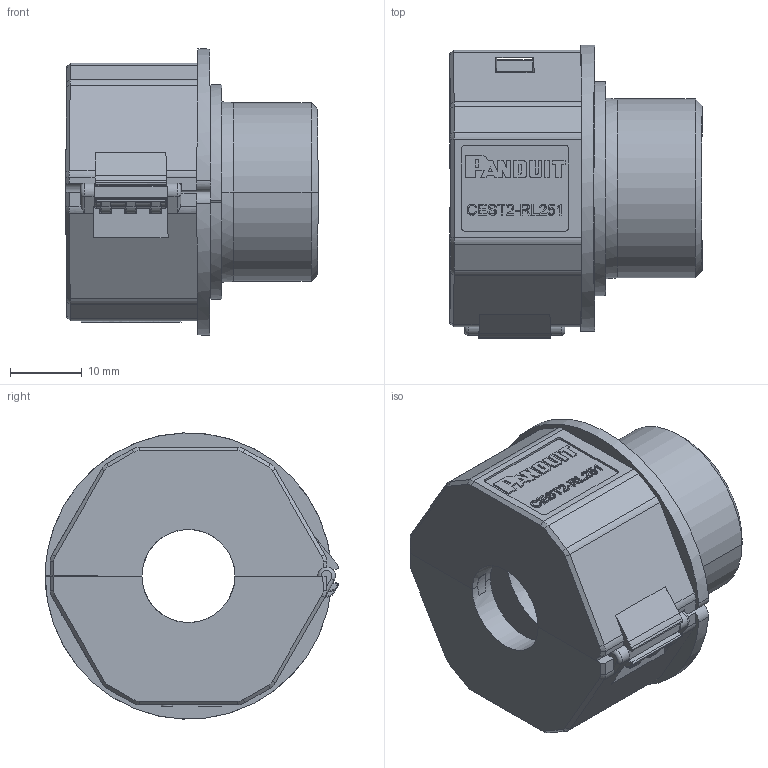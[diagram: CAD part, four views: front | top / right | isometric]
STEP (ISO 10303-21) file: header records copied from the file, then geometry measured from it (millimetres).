
FILE_DESCRIPTION(/* description */ (''),/* implementation_level */ '2;1');
FILE_NAME(/* name */ 'C:\SapWorkDir\Inventor\MP1\ConvertTempPath\87_11_121434_00_A_220615_KDL-D mono M25x1,5.stp',/* time_stamp */ '2022-06-17T11:17:20+02:00',/* author */ ('BAUER'),/* organization */ (''),/* preprocessor_version */ 'ST-DEVELOPER v16.13',/* originating_system */ 'Autodesk Inventor 2018',/* authorisation */ '');
FILE_SCHEMA (('AUTOMOTIVE_DESIGN { 1 0 10303 214 3 1 1 }'));
Length unit declared in the file: millimetre
Products named in the file (5): 121434; 121442; 121435; HS 1_Dichtung-M25; HS 1_Dichtung-M25_1
Assembly tree (4 placements, depth 2):
  121434
    121442
    121435
    HS 1_Dichtung-M25
    HS 1_Dichtung-M25_1
Bounding box: 35.31 x 40.99 x 39.98 mm (x, y, z)
Volume: 17694.8 mm3; surface area: 13670.9 mm2
Topology: 20 solids, 20 shells, 1055 faces, 2797 edges, 1800 vertices
Faces by surface type: plane 586, cylinder 261, bspline 173, torus 20, cone 9, sphere 6
Entity records: 36394 total; most frequent: CARTESIAN_POINT 10281, ORIENTED_EDGE 5582, DIRECTION 4918, EDGE_CURVE 2791, LINE 1868, VECTOR 1868, VERTEX_POINT 1800, AXIS2_PLACEMENT_3D 1525
